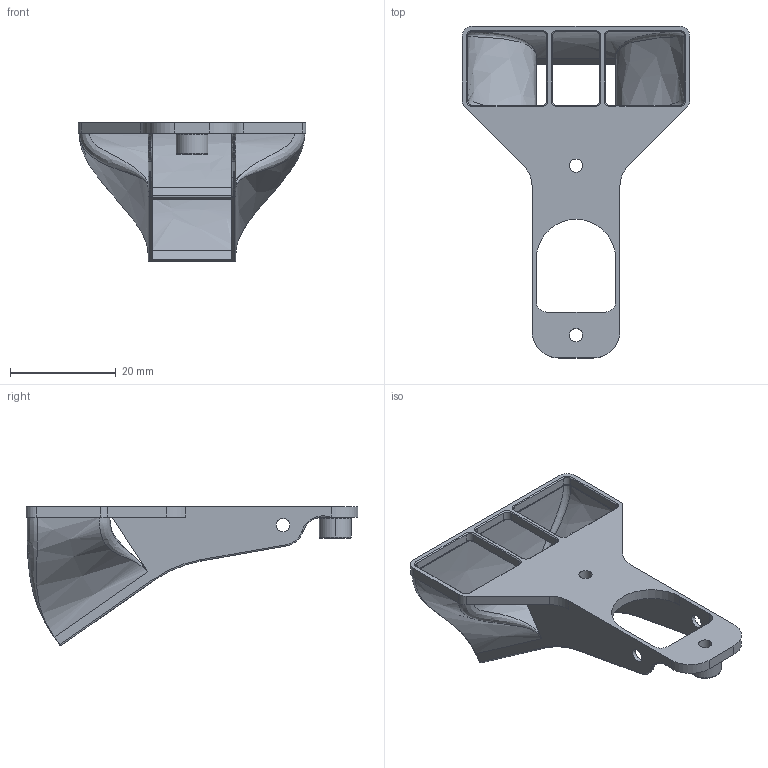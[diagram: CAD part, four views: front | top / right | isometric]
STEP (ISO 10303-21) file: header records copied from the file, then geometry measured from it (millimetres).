
FILE_DESCRIPTION (( 'STEP AP214' ), '1' );
FILE_NAME ('Fan_connector_Single5015_r2.STEP', '2023-12-22T04:23:07', ( '' ), ( '' ), 'SwSTEP 2.0', 'SolidWorks 2016', '' );
FILE_SCHEMA (( 'AUTOMOTIVE_DESIGN' ));
Length unit declared in the file: millimetre
Products named in the file (2): Fan_connector_Single5015_r2
Bounding box: 43 x 62.66 x 26.22 mm (x, y, z)
Volume: 3841.1 mm3; surface area: 7601.3 mm2
Topology: 1 solids, 1 shells, 198 faces, 495 edges, 287 vertices
Faces by surface type: plane 80, cylinder 56, cone 24, torus 20, bspline 18
Entity records: 9593 total; most frequent: CARTESIAN_POINT 4928, ORIENTED_EDGE 974, DIRECTION 959, EDGE_CURVE 487, AXIS2_PLACEMENT_3D 344, VERTEX_POINT 287, LINE 271, VECTOR 271
